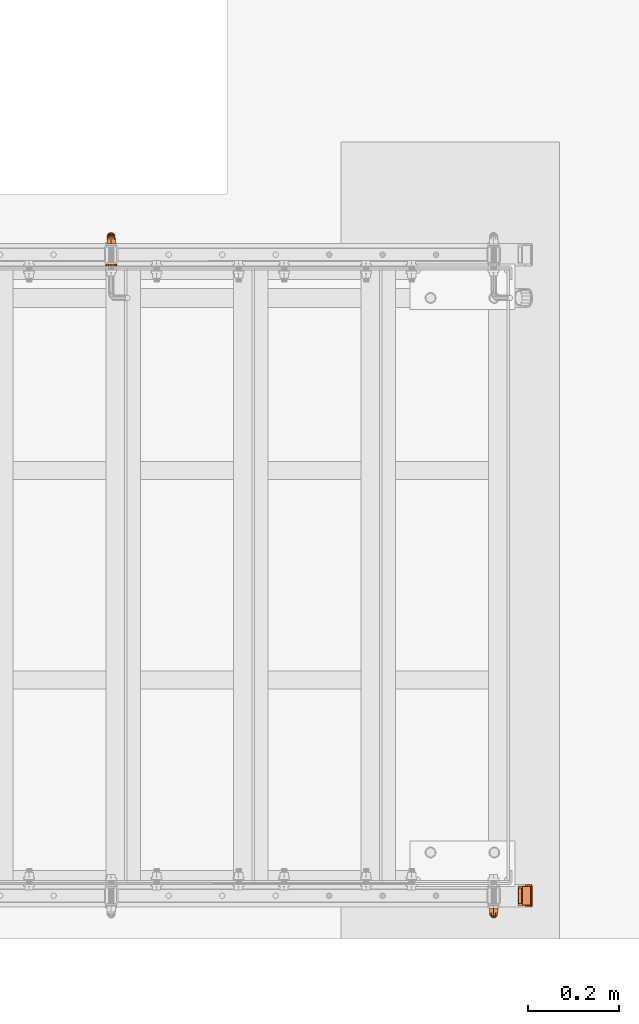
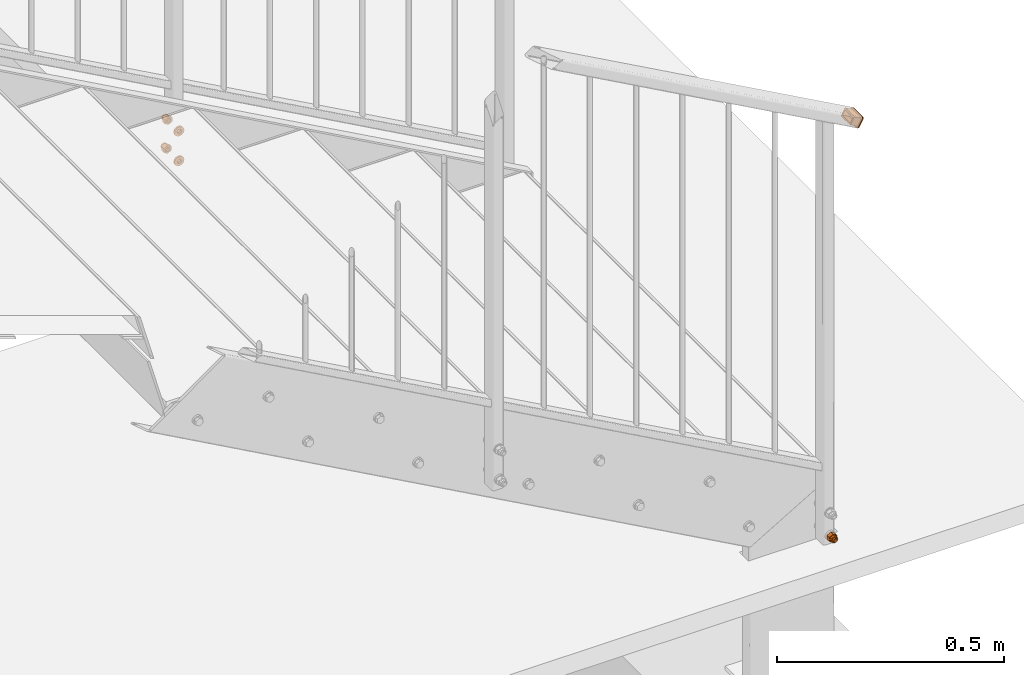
# One storey, part 115 of 116: 6 proxies.
"""IFC2X3 building model written with IfcOpenShell, lengths in millimetres."""

from ifc_helpers import new_model, entity, si_unit, converted_unit, origin_with_axes, place, context, project, spatial, faceted_brep, material, element, save


model = new_model("IFC2X3")

# Units and contexts
model_context = context("Model", 3, precision=1e-09, world=origin_with_axes())
ifc_project = project(units=[si_unit("LENGTHUNIT", "METRE", prefix="MILLI"), si_unit("AREAUNIT", "SQUARE_METRE"), si_unit("VOLUMEUNIT", "CUBIC_METRE"), converted_unit("PLANEANGLEUNIT", "DEGREE", entity("IfcPlaneAngleMeasure", 0.01745329), si_unit("PLANEANGLEUNIT", "RADIAN"), dimensions=[0, 0, 0, 0, 0, 0, 0])], contexts=[model_context])

# Site, building, storey
site_placement = place(None, origin_with_axes())
site = spatial("IfcSite", under=ifc_project, at=site_placement, Name="Site", CompositionType="ELEMENT")
building_placement = place(site_placement, origin_with_axes())
building = spatial("IfcBuilding", under=site, at=building_placement, Name="Struktur 1", CompositionType="ELEMENT")
storey_placement = place(building_placement, origin_with_axes())
storey = spatial("IfcBuildingStorey", under=building, at=storey_placement, Name="Default Storey", CompositionType="ELEMENT", Elevation=0.0)

# Proxies
ifc_material = material(Name="Kein")
proxy_1_placement = place(None, origin_with_axes())
element("IfcBuildingElementProxy", 1, at=proxy_1_placement, inside=storey, material=ifc_material, ObjectType="-", context=model_context, shape_type="Brep", body=[
    faceted_brep([(60571.049134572, 9020.359883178, -1368.0), (60571.049134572, 9010.359883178, -1368.0), (60571.852982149, 9010.359883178, -1371.0), (60571.852982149, 9020.359883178, -1371.0), (60574.049134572, 9010.359883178, -1373.196152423), (60574.049134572, 9020.359883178, -1373.196152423), (60571.852982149, 9020.359883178, -1365.0), (60571.852982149, 9010.359883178, -1365.0), (60567.569265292, 9020.359883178, -1362.526794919), (60577.049134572, 9020.359883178, -1357.053589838), (60586.529003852, 9020.359883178, -1362.526794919), (60586.529003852, 9020.359883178, -1373.473205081), (60577.049134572, 9020.359883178, -1378.946410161), (60567.569265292, 9020.359883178, -1373.473205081), (60574.049134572, 9020.359883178, -1362.803847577), (60577.049134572, 9020.359883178, -1374.0), (60580.049134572, 9020.359883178, -1373.196152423), (60582.245286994, 9020.359883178, -1371.0), (60583.049134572, 9020.359883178, -1368.0), (60582.245286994, 9020.359883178, -1365.0), (60580.049134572, 9020.359883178, -1362.803847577), (60577.049134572, 9020.359883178, -1362.0), (60577.049134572, 9010.359883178, -1357.053589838), (60567.569265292, 9010.359883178, -1362.526794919), (60567.569265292, 9010.359883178, -1373.473205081), (60577.049134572, 9010.359883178, -1378.946410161), (60586.529003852, 9010.359883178, -1373.473205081), (60586.529003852, 9010.359883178, -1362.526794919), (60574.049134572, 9010.359883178, -1362.803847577), (60577.049134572, 9010.359883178, -1362.0), (60580.049134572, 9010.359883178, -1362.803847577), (60582.245286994, 9010.359883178, -1365.0), (60583.049134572, 9010.359883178, -1368.0), (60582.245286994, 9010.359883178, -1371.0), (60580.049134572, 9010.359883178, -1373.196152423), (60577.049134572, 9010.359883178, -1374.0)], [[[0, 1, 2, 3]], [[3, 2, 4, 5]], [[1, 0, 6, 7]], [[8, 9, 10, 11, 12, 13], [14, 6, 0, 3, 5, 15, 16, 17, 18, 19, 20, 21]], [[22, 23, 24, 25, 26, 27], [1, 7, 28, 29, 30, 31, 32, 33, 34, 35, 4, 2]], [[7, 6, 14, 28]], [[24, 23, 8, 13]], [[5, 4, 35, 15]], [[13, 12, 25, 24]], [[28, 14, 21, 29]], [[23, 22, 9, 8]], [[15, 35, 34, 16]], [[12, 11, 26, 25]], [[29, 21, 20, 30]], [[22, 27, 10, 9]], [[16, 34, 33, 17]], [[27, 26, 11, 10]], [[30, 20, 19, 31]], [[17, 33, 32, 18]], [[31, 19, 18, 32]]]),
    faceted_brep([(60577.049134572, 9010.359883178, -1359.0), (60577.049134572, 9007.359883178, -1359.0), (60581.549134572, 9007.359883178, -1360.205771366), (60581.549134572, 9010.359883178, -1360.205771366), (60572.549134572, 9010.359883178, -1360.205771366), (60572.549134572, 9007.359883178, -1360.205771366), (60569.254905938, 9007.359883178, -1372.5), (60572.549134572, 9007.359883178, -1375.794228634), (60577.049134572, 9007.359883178, -1377.0), (60581.549134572, 9007.359883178, -1375.794228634), (60584.843363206, 9007.359883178, -1372.5), (60586.049134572, 9007.359883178, -1368.0), (60584.843363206, 9007.359883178, -1363.5), (60569.254905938, 9007.359883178, -1363.5), (60568.049134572, 9007.359883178, -1368.0), (60584.843363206, 9010.359883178, -1372.5), (60581.549134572, 9010.359883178, -1375.794228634), (60577.049134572, 9010.359883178, -1377.0), (60572.549134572, 9010.359883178, -1375.794228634), (60569.254905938, 9010.359883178, -1372.5), (60568.049134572, 9010.359883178, -1368.0), (60569.254905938, 9010.359883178, -1363.5), (60584.843363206, 9010.359883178, -1363.5), (60586.049134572, 9010.359883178, -1368.0)], [[[0, 1, 2, 3]], [[1, 0, 4, 5]], [[6, 7, 8, 9, 10, 11, 12, 2, 1, 5, 13, 14]], [[15, 16, 17, 18, 19, 20, 21, 4, 0, 3, 22, 23]], [[3, 2, 12, 22]], [[5, 4, 21, 13]], [[22, 12, 11, 23]], [[13, 21, 20, 14]], [[7, 18, 17, 8]], [[19, 6, 14, 20]], [[18, 7, 6, 19]], [[23, 11, 10, 15]], [[8, 17, 16, 9]], [[15, 10, 9, 16]]]),
    faceted_brep([(60569.254905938, 9007.359883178, -1363.5), (60570.299134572, 9002.859883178, -1364.102885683), (60573.152020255, 9002.859883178, -1361.25), (60572.549134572, 9007.359883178, -1360.205771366), (60584.843363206, 9007.359883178, -1372.5), (60581.549134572, 9007.359883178, -1375.794228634), (60577.049134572, 9007.359883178, -1377.0), (60572.549134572, 9007.359883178, -1375.794228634), (60569.254905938, 9007.359883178, -1372.5), (60568.049134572, 9007.359883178, -1368.0), (60577.049134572, 9007.359883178, -1359.0), (60581.549134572, 9007.359883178, -1360.205771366), (60584.843363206, 9007.359883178, -1363.5), (60586.049134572, 9007.359883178, -1368.0), (60577.049134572, 9002.859883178, -1360.205771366), (60569.254905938, 9002.859883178, -1368.0), (60572.549134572, 8999.565654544, -1368.0), (60573.152020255, 8999.565654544, -1365.75), (60580.946248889, 9002.859883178, -1361.25), (60574.799134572, 8999.565654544, -1364.102885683), (60570.299134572, 9002.859883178, -1371.897114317), (60573.152020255, 8999.565654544, -1370.25), (60577.049134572, 8999.565654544, -1363.5), (60577.049134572, 8998.359883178, -1368.0), (60573.152020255, 9002.859883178, -1374.75), (60574.799134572, 8999.565654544, -1371.897114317), (60577.049134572, 9002.859883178, -1375.794228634), (60583.799134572, 9002.859883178, -1364.102885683), (60579.299134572, 8999.565654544, -1364.102885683), (60577.049134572, 8999.565654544, -1372.5), (60580.946248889, 9002.859883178, -1374.75), (60579.299134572, 8999.565654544, -1371.897114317), (60584.843363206, 9002.859883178, -1368.0), (60580.946248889, 8999.565654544, -1365.75), (60583.799134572, 9002.859883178, -1371.897114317), (60580.946248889, 8999.565654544, -1370.25), (60581.549134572, 8999.565654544, -1368.0)], [[[0, 1, 2, 3]], [[4, 5, 6, 7, 8, 9, 0, 3, 10, 11, 12, 13]], [[3, 2, 14, 10]], [[15, 16, 17, 1]], [[1, 0, 9, 15]], [[10, 14, 18, 11]], [[1, 17, 19, 2]], [[16, 15, 20, 21]], [[2, 19, 22, 14]], [[23, 17, 16]], [[24, 25, 21, 20]], [[23, 16, 21]], [[24, 7, 6, 26]], [[20, 8, 7, 24]], [[15, 9, 8, 20]], [[11, 18, 27, 12]], [[14, 22, 28, 18]], [[23, 19, 17]], [[26, 29, 25, 24]], [[23, 21, 25]], [[23, 22, 19]], [[26, 6, 5, 30]], [[29, 26, 30, 31]], [[23, 25, 29]], [[12, 27, 32, 13]], [[18, 28, 33, 27]], [[23, 28, 22]], [[23, 29, 31]], [[23, 33, 28]], [[30, 5, 4, 34]], [[31, 30, 34, 35]], [[23, 31, 35]], [[13, 32, 34, 4]], [[27, 33, 36, 32]], [[23, 36, 33]], [[23, 35, 36]], [[35, 34, 32, 36]]]),
])
proxy_2_placement = place(None, origin_with_axes())
element("IfcBuildingElementProxy", 2, at=proxy_2_placement, inside=storey, material=ifc_material, ObjectType="-", context=model_context, shape_type="Brep", body=[
    faceted_brep([(59734.049134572, 10435.357883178, -928.196152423), (59737.049134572, 10435.357883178, -929.0), (59740.049134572, 10435.357883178, -928.196152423), (59742.245286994, 10435.357883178, -926.0), (59743.049134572, 10435.357883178, -923.0), (59742.245286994, 10435.357883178, -920.0), (59740.049134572, 10435.357883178, -917.803847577), (59737.049134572, 10435.357883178, -917.0), (59734.049134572, 10435.357883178, -917.803847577), (59731.852982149, 10435.357883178, -920.0), (59731.049134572, 10435.357883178, -923.0), (59731.852982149, 10435.357883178, -926.0), (59726.223817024, 10430.357883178, -929.25), (59726.223817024, 10435.357883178, -929.25), (59730.799134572, 10435.357883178, -933.825317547), (59730.799134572, 10430.357883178, -933.825317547), (59737.049134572, 10430.357883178, -935.5), (59743.299134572, 10430.357883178, -933.825317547), (59747.874452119, 10430.357883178, -929.25), (59749.549134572, 10430.357883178, -923.0), (59747.874452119, 10430.357883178, -916.75), (59743.299134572, 10430.357883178, -912.174682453), (59737.049134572, 10430.357883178, -910.5), (59730.799134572, 10430.357883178, -912.174682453), (59726.223817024, 10430.357883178, -916.75), (59724.549134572, 10430.357883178, -923.0), (59731.049134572, 10430.357883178, -923.0), (59731.852982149, 10430.357883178, -920.0), (59734.049134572, 10430.357883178, -917.803847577), (59737.049134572, 10430.357883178, -917.0), (59740.049134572, 10430.357883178, -917.803847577), (59742.245286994, 10430.357883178, -920.0), (59743.049134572, 10430.357883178, -923.0), (59742.245286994, 10430.357883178, -926.0), (59740.049134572, 10430.357883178, -928.196152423), (59737.049134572, 10430.357883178, -929.0), (59734.049134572, 10430.357883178, -928.196152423), (59731.852982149, 10430.357883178, -926.0), (59724.549134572, 10435.357883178, -923.0), (59737.049134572, 10435.357883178, -935.5), (59726.223817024, 10435.357883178, -916.75), (59743.299134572, 10435.357883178, -933.825317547), (59730.799134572, 10435.357883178, -912.174682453), (59747.874452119, 10435.357883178, -929.25), (59737.049134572, 10435.357883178, -910.5), (59749.549134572, 10435.357883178, -923.0), (59743.299134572, 10435.357883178, -912.174682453), (59747.874452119, 10435.357883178, -916.75)], [[[0, 1, 2, 3, 4, 5, 6, 7, 8, 9, 10, 11]], [[12, 13, 14, 15]], [[12, 15, 16, 17, 18, 19, 20, 21, 22, 23, 24, 25], [26, 27, 28, 29, 30, 31, 32, 33, 34, 35, 36, 37]], [[11, 37, 36, 0]], [[13, 12, 25, 38]], [[37, 11, 10, 26]], [[0, 36, 35, 1]], [[15, 14, 39, 16]], [[38, 25, 24, 40]], [[26, 10, 9, 27]], [[1, 35, 34, 2]], [[16, 39, 41, 17]], [[40, 24, 23, 42]], [[27, 9, 8, 28]], [[33, 3, 2, 34]], [[17, 41, 43, 18]], [[3, 33, 32, 4]], [[42, 23, 22, 44]], [[28, 8, 7, 29]], [[31, 5, 4, 32]], [[18, 43, 45, 19]], [[6, 30, 29, 7]], [[5, 31, 30, 6]], [[44, 22, 21, 46]], [[19, 45, 47, 20]], [[46, 21, 20, 47]]]),
])
proxy_3_placement = place(None, origin_with_axes())
element("IfcBuildingElementProxy", 3, at=proxy_3_placement, inside=storey, material=ifc_material, ObjectType="-", context=model_context, shape_type="Brep", body=[
    faceted_brep([(59734.049134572, 10435.357883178, -848.196152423), (59737.049134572, 10435.357883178, -849.0), (59740.049134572, 10435.357883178, -848.196152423), (59742.245286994, 10435.357883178, -846.0), (59743.049134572, 10435.357883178, -843.0), (59742.245286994, 10435.357883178, -840.0), (59740.049134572, 10435.357883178, -837.803847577), (59737.049134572, 10435.357883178, -837.0), (59734.049134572, 10435.357883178, -837.803847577), (59731.852982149, 10435.357883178, -840.0), (59731.049134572, 10435.357883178, -843.0), (59731.852982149, 10435.357883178, -846.0), (59726.223817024, 10430.357883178, -849.25), (59726.223817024, 10435.357883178, -849.25), (59730.799134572, 10435.357883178, -853.825317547), (59730.799134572, 10430.357883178, -853.825317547), (59737.049134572, 10430.357883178, -855.5), (59743.299134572, 10430.357883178, -853.825317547), (59747.874452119, 10430.357883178, -849.25), (59749.549134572, 10430.357883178, -843.0), (59747.874452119, 10430.357883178, -836.75), (59743.299134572, 10430.357883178, -832.174682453), (59737.049134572, 10430.357883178, -830.5), (59730.799134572, 10430.357883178, -832.174682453), (59726.223817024, 10430.357883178, -836.75), (59724.549134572, 10430.357883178, -843.0), (59731.049134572, 10430.357883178, -843.0), (59731.852982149, 10430.357883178, -840.0), (59734.049134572, 10430.357883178, -837.803847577), (59737.049134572, 10430.357883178, -837.0), (59740.049134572, 10430.357883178, -837.803847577), (59742.245286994, 10430.357883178, -840.0), (59743.049134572, 10430.357883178, -843.0), (59742.245286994, 10430.357883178, -846.0), (59740.049134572, 10430.357883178, -848.196152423), (59737.049134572, 10430.357883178, -849.0), (59734.049134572, 10430.357883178, -848.196152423), (59731.852982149, 10430.357883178, -846.0), (59724.549134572, 10435.357883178, -843.0), (59737.049134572, 10435.357883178, -855.5), (59726.223817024, 10435.357883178, -836.75), (59743.299134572, 10435.357883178, -853.825317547), (59730.799134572, 10435.357883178, -832.174682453), (59747.874452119, 10435.357883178, -849.25), (59737.049134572, 10435.357883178, -830.5), (59749.549134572, 10435.357883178, -843.0), (59743.299134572, 10435.357883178, -832.174682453), (59747.874452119, 10435.357883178, -836.75)], [[[0, 1, 2, 3, 4, 5, 6, 7, 8, 9, 10, 11]], [[12, 13, 14, 15]], [[12, 15, 16, 17, 18, 19, 20, 21, 22, 23, 24, 25], [26, 27, 28, 29, 30, 31, 32, 33, 34, 35, 36, 37]], [[11, 37, 36, 0]], [[13, 12, 25, 38]], [[37, 11, 10, 26]], [[0, 36, 35, 1]], [[15, 14, 39, 16]], [[38, 25, 24, 40]], [[26, 10, 9, 27]], [[1, 35, 34, 2]], [[16, 39, 41, 17]], [[40, 24, 23, 42]], [[27, 9, 8, 28]], [[33, 3, 2, 34]], [[17, 41, 43, 18]], [[3, 33, 32, 4]], [[42, 23, 22, 44]], [[28, 8, 7, 29]], [[31, 5, 4, 32]], [[18, 43, 45, 19]], [[6, 30, 29, 7]], [[5, 31, 30, 6]], [[44, 22, 21, 46]], [[19, 45, 47, 20]], [[46, 21, 20, 47]]]),
])
proxy_4_placement = place(None, origin_with_axes())
element("IfcBuildingElementProxy", 4, at=proxy_4_placement, inside=storey, material=ifc_material, ObjectType="-", context=model_context, shape_type="Brep", body=[
    faceted_brep([(59731.049134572, 10492.357883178, -923.0), (59731.049134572, 10482.357883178, -923.0), (59731.852982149, 10482.357883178, -926.0), (59731.852982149, 10492.357883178, -926.0), (59734.049134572, 10482.357883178, -928.196152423), (59734.049134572, 10492.357883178, -928.196152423), (59731.852982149, 10492.357883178, -920.0), (59731.852982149, 10482.357883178, -920.0), (59727.569265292, 10482.357883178, -917.526794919), (59727.569265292, 10482.357883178, -928.473205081), (59737.049134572, 10482.357883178, -933.946410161), (59746.529003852, 10482.357883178, -928.473205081), (59746.529003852, 10482.357883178, -917.526794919), (59737.049134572, 10482.357883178, -912.053589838), (59734.049134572, 10482.357883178, -917.803847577), (59737.049134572, 10482.357883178, -917.0), (59740.049134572, 10482.357883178, -917.803847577), (59742.245286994, 10482.357883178, -920.0), (59743.049134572, 10482.357883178, -923.0), (59742.245286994, 10482.357883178, -926.0), (59740.049134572, 10482.357883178, -928.196152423), (59737.049134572, 10482.357883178, -929.0), (59727.569265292, 10492.357883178, -917.526794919), (59737.049134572, 10492.357883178, -912.053589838), (59746.529003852, 10492.357883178, -917.526794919), (59746.529003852, 10492.357883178, -928.473205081), (59737.049134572, 10492.357883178, -933.946410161), (59727.569265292, 10492.357883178, -928.473205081), (59734.049134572, 10492.357883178, -917.803847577), (59737.049134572, 10492.357883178, -929.0), (59737.049134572, 10492.357883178, -917.0), (59740.049134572, 10492.357883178, -928.196152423), (59740.049134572, 10492.357883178, -917.803847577), (59742.245286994, 10492.357883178, -926.0), (59742.245286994, 10492.357883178, -920.0), (59743.049134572, 10492.357883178, -923.0)], [[[0, 1, 2, 3]], [[3, 2, 4, 5]], [[1, 0, 6, 7]], [[8, 9, 10, 11, 12, 13], [7, 14, 15, 16, 17, 18, 19, 20, 21, 4, 2, 1]], [[22, 23, 24, 25, 26, 27]], [[7, 6, 28, 14]], [[22, 27, 9, 8]], [[5, 4, 21, 29]], [[10, 9, 27, 26]], [[14, 28, 30, 15]], [[23, 22, 8, 13]], [[29, 21, 20, 31]], [[11, 10, 26, 25]], [[15, 30, 32, 16]], [[24, 23, 13, 12]], [[31, 20, 19, 33]], [[25, 24, 12, 11]], [[16, 32, 34, 17]], [[33, 19, 18, 35]], [[17, 34, 35, 18]]]),
    faceted_brep([(59737.049134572, 10495.357883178, -914.0), (59737.049134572, 10492.357883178, -914.0), (59741.549134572, 10492.357883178, -915.205771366), (59741.549134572, 10495.357883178, -915.205771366), (59732.549134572, 10495.357883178, -915.205771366), (59732.549134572, 10492.357883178, -915.205771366), (59732.549134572, 10495.357883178, -930.794228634), (59729.254905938, 10495.357883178, -927.5), (59728.049134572, 10495.357883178, -923.0), (59729.254905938, 10495.357883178, -918.5), (59744.843363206, 10495.357883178, -918.5), (59746.049134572, 10495.357883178, -923.0), (59744.843363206, 10495.357883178, -927.5), (59741.549134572, 10495.357883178, -930.794228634), (59737.049134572, 10495.357883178, -932.0), (59741.549134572, 10492.357883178, -930.794228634), (59744.843363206, 10492.357883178, -927.5), (59746.049134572, 10492.357883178, -923.0), (59744.843363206, 10492.357883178, -918.5), (59729.254905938, 10492.357883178, -918.5), (59728.049134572, 10492.357883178, -923.0), (59729.254905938, 10492.357883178, -927.5), (59732.549134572, 10492.357883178, -930.794228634), (59737.049134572, 10492.357883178, -932.0)], [[[0, 1, 2, 3]], [[1, 0, 4, 5]], [[6, 7, 8, 9, 4, 0, 3, 10, 11, 12, 13, 14]], [[15, 16, 17, 18, 2, 1, 5, 19, 20, 21, 22, 23]], [[3, 2, 18, 10]], [[5, 4, 9, 19]], [[10, 18, 17, 11]], [[19, 9, 8, 20]], [[22, 6, 14, 23]], [[7, 21, 20, 8]], [[6, 22, 21, 7]], [[11, 17, 16, 12]], [[23, 14, 13, 15]], [[12, 16, 15, 13]]]),
    faceted_brep([(59730.299134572, 10499.857883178, -919.102885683), (59729.254905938, 10495.357883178, -918.5), (59732.549134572, 10495.357883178, -915.205771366), (59733.152020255, 10499.857883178, -916.25), (59741.549134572, 10495.357883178, -930.794228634), (59744.843363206, 10495.357883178, -927.5), (59746.049134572, 10495.357883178, -923.0), (59744.843363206, 10495.357883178, -918.5), (59741.549134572, 10495.357883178, -915.205771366), (59737.049134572, 10495.357883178, -914.0), (59728.049134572, 10495.357883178, -923.0), (59729.254905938, 10495.357883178, -927.5), (59732.549134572, 10495.357883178, -930.794228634), (59737.049134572, 10495.357883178, -932.0), (59737.049134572, 10499.857883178, -915.205771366), (59732.549134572, 10503.152111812, -923.0), (59729.254905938, 10499.857883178, -923.0), (59733.152020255, 10503.152111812, -920.75), (59740.946248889, 10499.857883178, -916.25), (59734.799134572, 10503.152111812, -919.102885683), (59733.152020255, 10503.152111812, -925.25), (59730.299134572, 10499.857883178, -926.897114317), (59737.049134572, 10503.152111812, -918.5), (59737.049134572, 10504.357883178, -923.0), (59734.799134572, 10503.152111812, -926.897114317), (59733.152020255, 10499.857883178, -929.75), (59737.049134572, 10499.857883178, -930.794228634), (59743.799134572, 10499.857883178, -919.102885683), (59739.299134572, 10503.152111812, -919.102885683), (59737.049134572, 10503.152111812, -927.5), (59740.946248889, 10499.857883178, -929.75), (59739.299134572, 10503.152111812, -926.897114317), (59744.843363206, 10499.857883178, -923.0), (59740.946248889, 10503.152111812, -920.75), (59743.799134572, 10499.857883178, -926.897114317), (59740.946248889, 10503.152111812, -925.25), (59741.549134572, 10503.152111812, -923.0)], [[[0, 1, 2, 3]], [[4, 5, 6, 7, 8, 9, 2, 1, 10, 11, 12, 13]], [[3, 2, 9, 14]], [[15, 16, 0, 17]], [[1, 0, 16, 10]], [[14, 9, 8, 18]], [[17, 0, 3, 19]], [[16, 15, 20, 21]], [[19, 3, 14, 22]], [[17, 23, 15]], [[24, 25, 21, 20]], [[15, 23, 20]], [[12, 25, 26, 13]], [[11, 21, 25, 12]], [[10, 16, 21, 11]], [[18, 8, 7, 27]], [[22, 14, 18, 28]], [[19, 23, 17]], [[29, 26, 25, 24]], [[20, 23, 24]], [[22, 23, 19]], [[13, 26, 30, 4]], [[26, 29, 31, 30]], [[24, 23, 29]], [[27, 7, 6, 32]], [[28, 18, 27, 33]], [[28, 23, 22]], [[29, 23, 31]], [[33, 23, 28]], [[4, 30, 34, 5]], [[30, 31, 35, 34]], [[31, 23, 35]], [[32, 6, 5, 34]], [[33, 27, 32, 36]], [[36, 23, 33]], [[35, 23, 36]], [[34, 35, 36, 32]]]),
])
proxy_5_placement = place(None, origin_with_axes())
element("IfcBuildingElementProxy", 5, at=proxy_5_placement, inside=storey, material=ifc_material, ObjectType="-", context=model_context, shape_type="Brep", body=[
    faceted_brep([(59731.049134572, 10488.357883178, -843.0), (59731.049134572, 10478.357883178, -843.0), (59731.852982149, 10478.357883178, -846.0), (59731.852982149, 10488.357883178, -846.0), (59734.049134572, 10478.357883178, -848.196152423), (59734.049134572, 10488.357883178, -848.196152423), (59731.852982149, 10488.357883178, -840.0), (59731.852982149, 10478.357883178, -840.0), (59727.569265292, 10478.357883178, -837.526794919), (59727.569265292, 10478.357883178, -848.473205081), (59737.049134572, 10478.357883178, -853.946410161), (59746.529003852, 10478.357883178, -848.473205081), (59746.529003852, 10478.357883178, -837.526794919), (59737.049134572, 10478.357883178, -832.053589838), (59734.049134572, 10478.357883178, -837.803847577), (59737.049134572, 10478.357883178, -837.0), (59740.049134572, 10478.357883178, -837.803847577), (59742.245286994, 10478.357883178, -840.0), (59743.049134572, 10478.357883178, -843.0), (59742.245286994, 10478.357883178, -846.0), (59740.049134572, 10478.357883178, -848.196152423), (59737.049134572, 10478.357883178, -849.0), (59727.569265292, 10488.357883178, -837.526794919), (59737.049134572, 10488.357883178, -832.053589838), (59746.529003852, 10488.357883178, -837.526794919), (59746.529003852, 10488.357883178, -848.473205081), (59737.049134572, 10488.357883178, -853.946410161), (59727.569265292, 10488.357883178, -848.473205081), (59734.049134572, 10488.357883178, -837.803847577), (59737.049134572, 10488.357883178, -849.0), (59737.049134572, 10488.357883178, -837.0), (59740.049134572, 10488.357883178, -848.196152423), (59740.049134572, 10488.357883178, -837.803847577), (59742.245286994, 10488.357883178, -846.0), (59742.245286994, 10488.357883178, -840.0), (59743.049134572, 10488.357883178, -843.0)], [[[0, 1, 2, 3]], [[3, 2, 4, 5]], [[1, 0, 6, 7]], [[8, 9, 10, 11, 12, 13], [7, 14, 15, 16, 17, 18, 19, 20, 21, 4, 2, 1]], [[22, 23, 24, 25, 26, 27]], [[7, 6, 28, 14]], [[22, 27, 9, 8]], [[5, 4, 21, 29]], [[10, 9, 27, 26]], [[14, 28, 30, 15]], [[23, 22, 8, 13]], [[29, 21, 20, 31]], [[11, 10, 26, 25]], [[15, 30, 32, 16]], [[24, 23, 13, 12]], [[31, 20, 19, 33]], [[25, 24, 12, 11]], [[16, 32, 34, 17]], [[33, 19, 18, 35]], [[17, 34, 35, 18]]]),
    faceted_brep([(59737.049134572, 10491.357883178, -834.0), (59737.049134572, 10488.357883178, -834.0), (59741.549134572, 10488.357883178, -835.205771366), (59741.549134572, 10491.357883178, -835.205771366), (59732.549134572, 10491.357883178, -835.205771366), (59732.549134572, 10488.357883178, -835.205771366), (59732.549134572, 10491.357883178, -850.794228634), (59729.254905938, 10491.357883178, -847.5), (59728.049134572, 10491.357883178, -843.0), (59729.254905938, 10491.357883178, -838.5), (59744.843363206, 10491.357883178, -838.5), (59746.049134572, 10491.357883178, -843.0), (59744.843363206, 10491.357883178, -847.5), (59741.549134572, 10491.357883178, -850.794228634), (59737.049134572, 10491.357883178, -852.0), (59741.549134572, 10488.357883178, -850.794228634), (59744.843363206, 10488.357883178, -847.5), (59746.049134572, 10488.357883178, -843.0), (59744.843363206, 10488.357883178, -838.5), (59729.254905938, 10488.357883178, -838.5), (59728.049134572, 10488.357883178, -843.0), (59729.254905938, 10488.357883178, -847.5), (59732.549134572, 10488.357883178, -850.794228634), (59737.049134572, 10488.357883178, -852.0)], [[[0, 1, 2, 3]], [[1, 0, 4, 5]], [[6, 7, 8, 9, 4, 0, 3, 10, 11, 12, 13, 14]], [[15, 16, 17, 18, 2, 1, 5, 19, 20, 21, 22, 23]], [[3, 2, 18, 10]], [[5, 4, 9, 19]], [[10, 18, 17, 11]], [[19, 9, 8, 20]], [[22, 6, 14, 23]], [[7, 21, 20, 8]], [[6, 22, 21, 7]], [[11, 17, 16, 12]], [[23, 14, 13, 15]], [[12, 16, 15, 13]]]),
    faceted_brep([(59730.299134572, 10495.857883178, -839.102885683), (59729.254905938, 10491.357883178, -838.5), (59732.549134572, 10491.357883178, -835.205771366), (59733.152020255, 10495.857883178, -836.25), (59741.549134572, 10491.357883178, -850.794228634), (59744.843363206, 10491.357883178, -847.5), (59746.049134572, 10491.357883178, -843.0), (59744.843363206, 10491.357883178, -838.5), (59741.549134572, 10491.357883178, -835.205771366), (59737.049134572, 10491.357883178, -834.0), (59728.049134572, 10491.357883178, -843.0), (59729.254905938, 10491.357883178, -847.5), (59732.549134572, 10491.357883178, -850.794228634), (59737.049134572, 10491.357883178, -852.0), (59737.049134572, 10495.857883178, -835.205771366), (59732.549134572, 10499.152111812, -843.0), (59729.254905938, 10495.857883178, -843.0), (59733.152020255, 10499.152111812, -840.75), (59740.946248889, 10495.857883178, -836.25), (59734.799134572, 10499.152111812, -839.102885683), (59733.152020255, 10499.152111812, -845.25), (59730.299134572, 10495.857883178, -846.897114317), (59737.049134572, 10499.152111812, -838.5), (59737.049134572, 10500.357883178, -843.0), (59734.799134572, 10499.152111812, -846.897114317), (59733.152020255, 10495.857883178, -849.75), (59737.049134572, 10495.857883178, -850.794228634), (59743.799134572, 10495.857883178, -839.102885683), (59739.299134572, 10499.152111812, -839.102885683), (59737.049134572, 10499.152111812, -847.5), (59740.946248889, 10495.857883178, -849.75), (59739.299134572, 10499.152111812, -846.897114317), (59744.843363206, 10495.857883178, -843.0), (59740.946248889, 10499.152111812, -840.75), (59743.799134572, 10495.857883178, -846.897114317), (59740.946248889, 10499.152111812, -845.25), (59741.549134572, 10499.152111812, -843.0)], [[[0, 1, 2, 3]], [[4, 5, 6, 7, 8, 9, 2, 1, 10, 11, 12, 13]], [[3, 2, 9, 14]], [[15, 16, 0, 17]], [[1, 0, 16, 10]], [[14, 9, 8, 18]], [[17, 0, 3, 19]], [[16, 15, 20, 21]], [[19, 3, 14, 22]], [[17, 23, 15]], [[24, 25, 21, 20]], [[15, 23, 20]], [[12, 25, 26, 13]], [[11, 21, 25, 12]], [[10, 16, 21, 11]], [[18, 8, 7, 27]], [[22, 14, 18, 28]], [[19, 23, 17]], [[29, 26, 25, 24]], [[20, 23, 24]], [[22, 23, 19]], [[13, 26, 30, 4]], [[26, 29, 31, 30]], [[24, 23, 29]], [[27, 7, 6, 32]], [[28, 18, 27, 33]], [[28, 23, 22]], [[29, 23, 31]], [[33, 23, 28]], [[4, 30, 34, 5]], [[30, 31, 35, 34]], [[31, 23, 35]], [[32, 6, 5, 34]], [[33, 27, 32, 36]], [[36, 23, 33]], [[35, 23, 36]], [[34, 35, 36, 32]]]),
])
proxy_6_placement = place(None, origin_with_axes())
element("IfcBuildingElementProxy", 6, at=proxy_6_placement, inside=storey, material=ifc_material, ObjectType="-", context=model_context, shape_type="Brep", body=[
    faceted_brep([(60631.078568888, 9068.359883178, -285.966070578), (60639.796254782, 9068.359883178, -270.217992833), (60657.294118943, 9068.359883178, -279.904310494), (60648.576433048, 9068.359883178, -295.652388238), (60640.280570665, 9068.091933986, -269.343099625), (60657.778434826, 9068.091933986, -279.029417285), (60658.132978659, 9067.359883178, -278.388951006), (60640.635114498, 9067.359883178, -268.702633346), (60640.764886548, 9066.359883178, -268.468206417), (60658.262750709, 9066.359883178, -278.154524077), (60648.092117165, 9068.091933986, -296.527281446), (60630.594253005, 9068.091933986, -286.840963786), (60647.737573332, 9067.359883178, -297.167747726), (60630.239709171, 9067.359883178, -287.481430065), (60630.109937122, 9066.359883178, -287.715856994), (60630.109937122, 9028.359883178, -287.715856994), (60630.239709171, 9027.359883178, -287.481430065), (60630.594253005, 9026.627832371, -286.840963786), (60631.078568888, 9026.359883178, -285.966070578), (60639.796254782, 9026.359883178, -270.217992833), (60640.280570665, 9026.627832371, -269.343099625), (60640.635114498, 9027.359883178, -268.702633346), (60640.764886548, 9028.359883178, -268.468206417), (60638.827623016, 9064.359883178, -271.967779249), (60638.827623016, 9030.359883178, -271.967779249), (60632.047200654, 9030.359883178, -284.216284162), (60632.047200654, 9064.359883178, -284.216284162), (60658.262750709, 9028.359883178, -278.154524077), (60658.132978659, 9027.359883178, -278.388951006), (60657.778434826, 9026.627832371, -279.029417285), (60657.294118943, 9026.359883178, -279.904310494), (60648.576433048, 9026.359883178, -295.652388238), (60648.092117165, 9026.627832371, -296.527281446), (60647.737573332, 9027.359883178, -297.167747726), (60647.607801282, 9028.359883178, -297.402174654), (60647.607801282, 9066.359883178, -297.402174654), (60656.325487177, 9064.359883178, -281.65409691), (60649.545064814, 9064.359883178, -293.902601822), (60649.545064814, 9030.359883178, -293.902601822), (60656.325487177, 9030.359883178, -281.65409691)], [[[0, 1, 2, 3]], [[2, 1, 4, 5]], [[6, 7, 8, 9]], [[5, 4, 7, 6]], [[0, 3, 10, 11]], [[11, 10, 12, 13]], [[7, 4, 1, 0, 11, 13, 14, 15, 16, 17, 18, 19, 20, 21, 22, 8], [23, 24, 25, 26]], [[3, 2, 5, 6, 9, 27, 28, 29, 30, 31, 32, 33, 34, 35, 12, 10], [36, 37, 38, 39]], [[21, 28, 27, 22]], [[8, 22, 27, 9]], [[37, 36, 23, 26]], [[28, 21, 20, 29]], [[13, 12, 35, 14]], [[26, 25, 38, 37]], [[15, 14, 35, 34]], [[15, 34, 33, 16]], [[36, 39, 24, 23]], [[29, 20, 19, 30]], [[16, 33, 32, 17]], [[25, 24, 39, 38]], [[19, 18, 31, 30]], [[17, 32, 31, 18]]]),
    faceted_brep([(60648.295217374, 9066.359883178, -302.354695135), (60645.67053775, 9066.359883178, -300.901747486), (60646.059853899, 9069.359883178, -300.198466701), (60648.684533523, 9069.359883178, -301.65141435), (60647.123485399, 9071.556035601, -298.277067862), (60649.748165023, 9071.556035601, -299.730015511), (60645.67053775, 9028.359883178, -300.901747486), (60648.295217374, 9028.359883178, -302.354695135), (60648.684533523, 9025.359883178, -301.65141435), (60646.059853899, 9025.359883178, -300.198466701), (60649.748165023, 9023.163730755, -299.730015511), (60647.123485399, 9023.163730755, -298.277067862), (60648.576433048, 9072.359883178, -295.652388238), (60648.576433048, 9022.359883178, -295.652388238), (60657.294118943, 9022.359883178, -279.904310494), (60658.747066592, 9023.163730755, -277.279630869), (60659.810698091, 9025.359883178, -275.358232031), (60660.200014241, 9028.359883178, -274.654951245), (60660.200014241, 9066.359883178, -274.654951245), (60659.810698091, 9069.359883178, -275.358232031), (60658.747066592, 9071.556035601, -277.279630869), (60657.294118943, 9072.359883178, -279.904310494), (60651.201112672, 9022.359883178, -297.105335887), (60651.201112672, 9072.359883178, -297.105335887), (60659.918798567, 9072.359883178, -281.357258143), (60661.371746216, 9071.556035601, -278.732578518), (60662.435377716, 9069.359883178, -276.81117968), (60662.824693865, 9066.359883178, -276.107898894), (60662.824693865, 9028.359883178, -276.107898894), (60662.435377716, 9025.359883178, -276.81117968), (60661.371746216, 9023.163730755, -278.732578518), (60659.918798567, 9022.359883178, -281.357258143)], [[[0, 1, 2, 3]], [[3, 2, 4, 5]], [[6, 7, 8, 9]], [[9, 8, 10, 11]], [[12, 4, 2, 1, 6, 9, 11, 13, 14, 15, 16, 17, 18, 19, 20, 21]], [[0, 7, 6, 1]], [[22, 10, 8, 7, 0, 3, 5, 23, 24, 25, 26, 27, 28, 29, 30, 31]], [[5, 4, 12, 23]], [[12, 21, 24, 23]], [[11, 10, 22, 13]], [[19, 26, 25, 20]], [[20, 25, 24, 21]], [[26, 19, 18, 27]], [[22, 31, 14, 13]], [[18, 17, 28, 27]], [[14, 31, 30, 15]], [[16, 29, 28, 17]], [[15, 30, 29, 16]]]),
])

save(model, "model.ifc")
